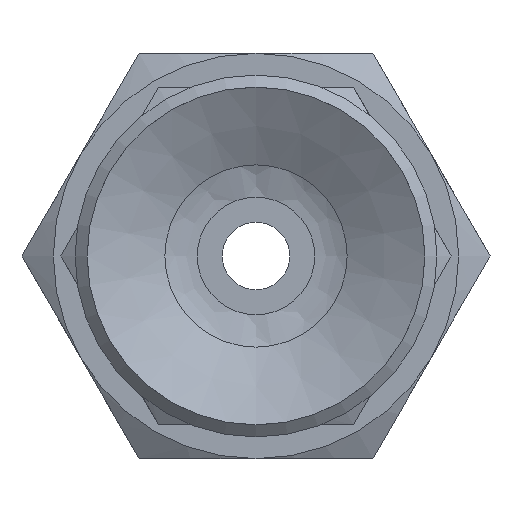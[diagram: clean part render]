
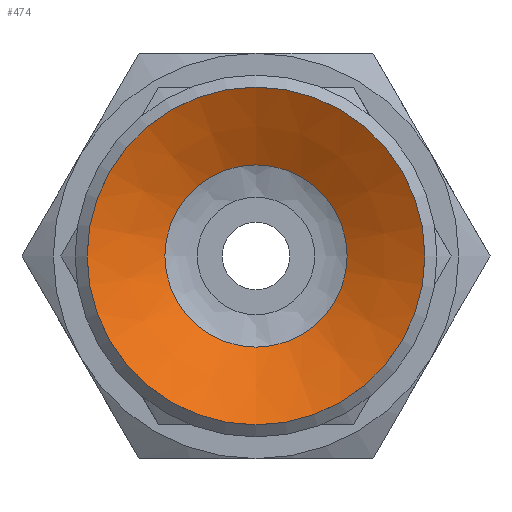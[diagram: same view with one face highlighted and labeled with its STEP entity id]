
A CAD part, front view. The second image highlights one B-rep face of the part: STEP entity #474.
In plain terms, the highlighted conical face has half-angle 61.39 degrees and reference radius 2.25 mm.
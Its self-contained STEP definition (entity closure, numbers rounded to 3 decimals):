
#474=ADVANCED_FACE('',(#680,#681),#682,.F.);
#680=FACE_BOUND('',#911,.T.);
#681=FACE_OUTER_BOUND('',#912,.T.);
#682=CONICAL_SURFACE('',#913,2.25,1.071);
#911=EDGE_LOOP('',(#1479));
#912=EDGE_LOOP('',(#1480));
#913=AXIS2_PLACEMENT_3D('',#1481,#1482,#1483);
#1479=ORIENTED_EDGE('',*,*,#1677,.T.);
#1480=ORIENTED_EDGE('',*,*,#1678,.T.);
#1481=CARTESIAN_POINT('',(0.0,1.5,0.0));
#1482=DIRECTION('',(-0.0,-1.0,0.));
#1483=DIRECTION('',(0.0,0.,-1.0));
#1677=EDGE_CURVE('',#1918,#1918,#1919,.T.);
#1678=EDGE_CURVE('',#1920,#1920,#1921,.T.);
#1918=VERTEX_POINT('',#2478);
#1919=CIRCLE('',#2479,2.698);
#1920=VERTEX_POINT('',#2480);
#1921=CIRCLE('',#2481,5.);
#2478=CARTESIAN_POINT('',(0.0,1.256,-2.698));
#2479=AXIS2_PLACEMENT_3D('',#2716,#2717,#2718);
#2480=CARTESIAN_POINT('',(0.0,0.,-5.));
#2481=AXIS2_PLACEMENT_3D('',#2719,#2720,#2721);
#2716=CARTESIAN_POINT('',(0.0,1.256,0.0));
#2717=DIRECTION('',(0.0,1.0,0.));
#2718=DIRECTION('',(0.0,0.,-1.0));
#2719=CARTESIAN_POINT('',(0.0,0.0,0.0));
#2720=DIRECTION('',(0.0,-1.0,0.));
#2721=DIRECTION('',(0.0,0.,-1.0));
